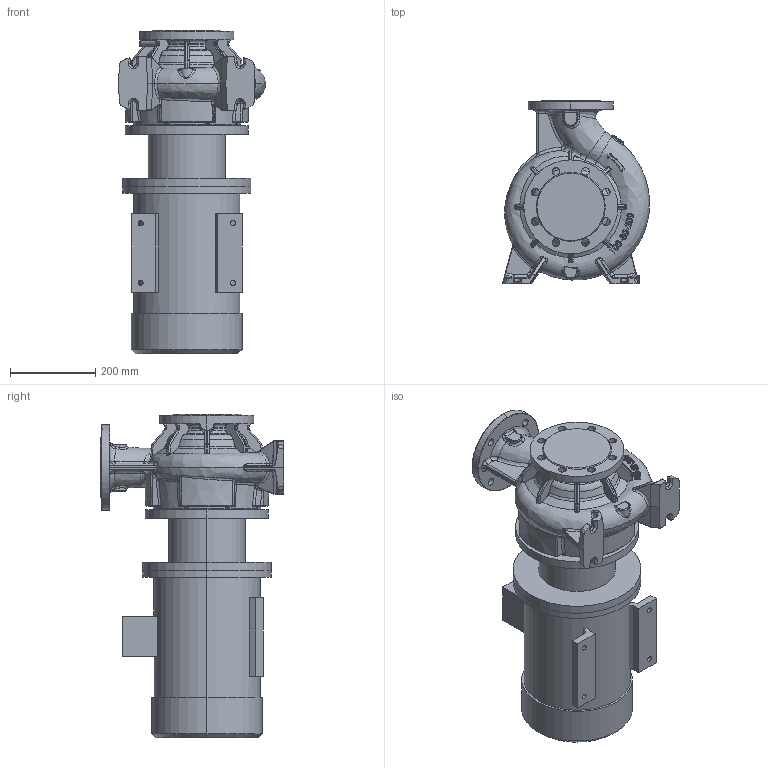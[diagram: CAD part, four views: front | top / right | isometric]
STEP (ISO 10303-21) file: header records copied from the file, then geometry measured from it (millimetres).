
FILE_DESCRIPTION (( 'STEP AP203' ), '1' );
FILE_NAME ('KRM 100-80-200-4-5,5.STEP', '2026-05-08T05:53:45', ( '' ), ( '' ), 'SwSTEP 2.0', 'SolidWorks 2016', '' );
FILE_SCHEMA (( 'CONFIG_CONTROL_DESIGN' ));
Products named in the file (1): KRM 100-80-200-4-5,5
Bounding box: 344.6 x 430 x 757.8 mm (x, y, z)
Volume: 41064103.1 mm3; surface area: 1568335.7 mm2
Topology: 14 solids, 14 shells, 1379 faces, 3303 edges, 1969 vertices
Faces by surface type: bspline 620, cylinder 308, plane 223, torus 119, cone 81, sphere 28
Entity records: 91772 total; most frequent: CARTESIAN_POINT 64429, ORIENTED_EDGE 6586, DIRECTION 4522, EDGE_CURVE 3293, VERTEX_POINT 1969, AXIS2_PLACEMENT_3D 1879, EDGE_LOOP 1452, FACE_OUTER_BOUND 1379
